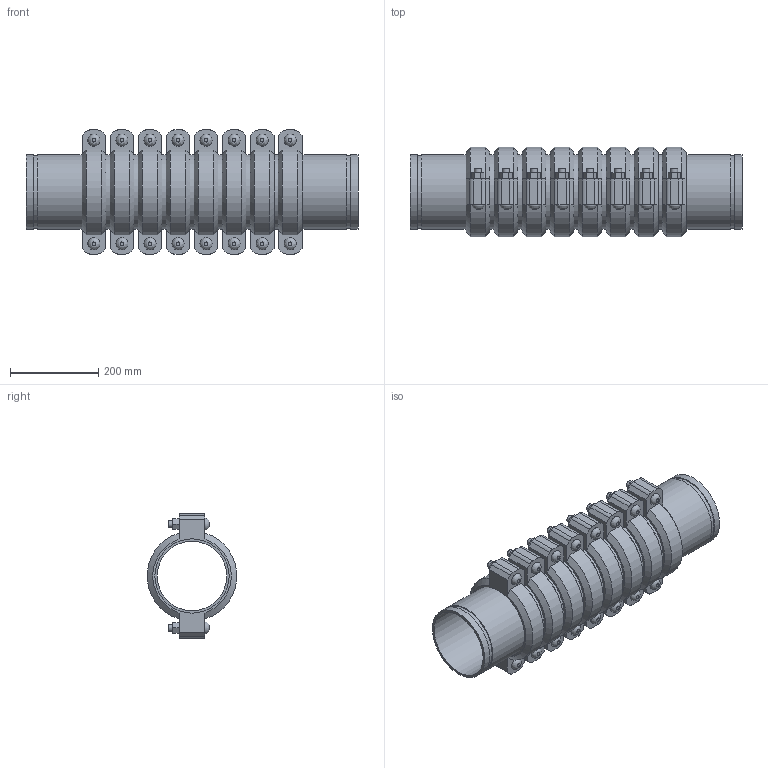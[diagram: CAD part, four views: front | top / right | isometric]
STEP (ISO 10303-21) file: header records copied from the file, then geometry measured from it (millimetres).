
FILE_DESCRIPTION(/* description */ ('VIC SS EXPANSION JOINT 8 COUPLINGS NEUTRAL STYLE 155P (OGS) (POTABLE WATER) ','CAx-IF Rec.Pracs.---Representation and Presentation of Product Manufacturing Information (PMI)---4.0---2014-10-13'),/* implementation_level */ '2;1');
FILE_NAME(/* name */ 'C:\Users\kkamble\AppData\Roaming\Autodesk\ApplicationPlugins\Victaulic.Temp\A279\Victaulic_SS_Expansion Joint_Neutral_8 Couplings_Style 155P (OGS)-Potable Water_8 Coup_Neut_6 (150).stp',/* time_stamp */ '2021-07-16T16:38:48+05:00',/* author */ ('kkamble'),/* organization */ ('Victaulic'),/* preprocessor_version */ 'ST-DEVELOPER v17.2',/* originating_system */ 'Autodesk Inventor 2019',/* authorisation */ '');
FILE_SCHEMA (('AP242_MANAGED_MODEL_BASED_3D_ENGINEERING_MIM_LF { 1 0 10303 442 1 1 4 }'));
Length unit declared in the file: inch
Products named in the file (4): 155P-06.0; Nipple-06.0; Nipple-06.0_1; 075-06.0
Assembly tree (17 placements, depth 2):
  155P-06.0
    Nipple-06.0  x2
    Nipple-06.0_1  x7
    075-06.0  x8
Bounding box: 752.6 x 202.46 x 281.18 mm (x, y, z)
Volume: 7917119.6 mm3; surface area: 1739206.9 mm2
Topology: 17 solids, 33 shells, 564 faces, 1334 edges, 936 vertices
Faces by surface type: plane 342, cylinder 174, cone 32, bspline 16
Full cylindrical faces by diameter (mm): 15.875 x32, 17.424 x16, 157.15 x9, 161.925 x8, 163.957 x18, 168.275 x43
Entity records: 2849 total; most frequent: CARTESIAN_POINT 501, DIRECTION 477, ORIENTED_EDGE 386, EDGE_CURVE 193, AXIS2_PLACEMENT_3D 192, VERTEX_POINT 138, EDGE_LOOP 107, LINE 93
